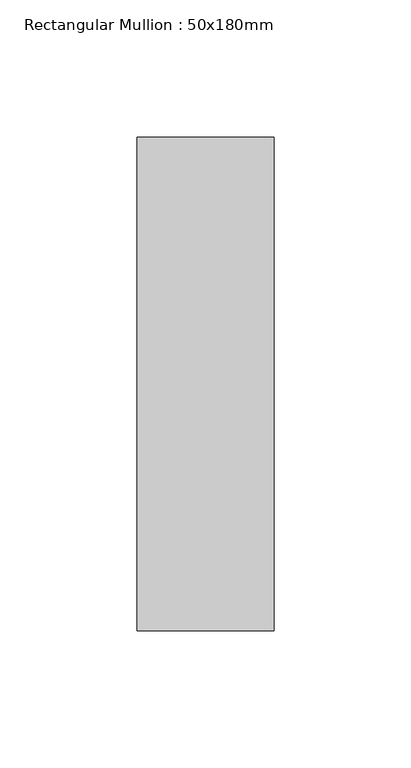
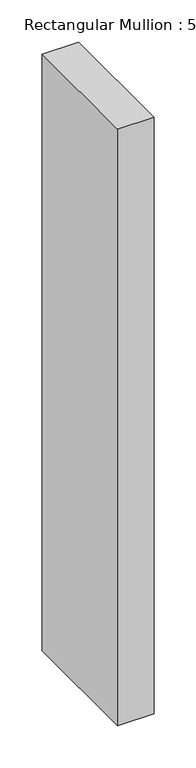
"""IFC4 building model written with IfcOpenShell, lengths in millimetres: member geometry, Rectangular Mullion : 50x180mm."""

from ifc_helpers import new_model, si_unit, frame, origin, place, context, project, spatial, polyline, outline, extrude, source, transform, mapped, element, save


def rectangular_mullion_50x180mm_3562f263(model_context):
    return source(origin(), model_context, "Body", "SweptSolid", [
        extrude(outline(polyline([(0.0, 90.0), (0.0, -90.0), (-50.0, -90.0), (-50.0, 90.0), (0.0, 90.0)])), frame((0.0, 0.0, -865.0), z_axis=(0.0, 0.0, 1.0), x_axis=(1.0, 0.0, 0.0)), (0.0, 0.0, 1.0), 865.0),
    ])


if __name__ == "__main__":
    model = new_model("IFC4")
    model_context = context("Model", 3, world=origin())
    ifc_project = project(units=[si_unit("LENGTHUNIT", "METRE", prefix="MILLI")], contexts=[model_context])
    site = spatial("IfcSite", under=ifc_project)
    building = spatial("IfcBuilding", under=site)
    placement = place(None, origin())
    rectangular_mullion_50x180mm_shape = rectangular_mullion_50x180mm_3562f263(model_context)
    element("IfcMember", 1, ObjectType="Rectangular Mullion : 50x180mm", at=placement, inside=building, context=model_context, shape_type="MappedRepresentation", body=[
        mapped(rectangular_mullion_50x180mm_shape, transform((0.0, 0.0, 0.0), x_axis=(1.0, 0.0, 0.0), y_axis=(0.0, 1.0, 0.0), z_axis=(0.0, 0.0, 1.0))),
    ])
    save(model, "model.ifc")
